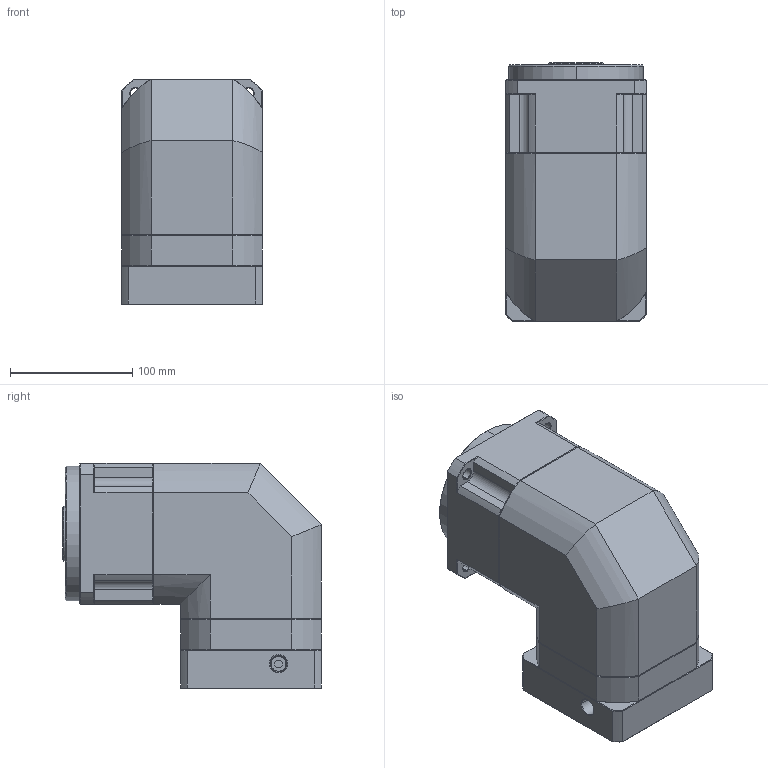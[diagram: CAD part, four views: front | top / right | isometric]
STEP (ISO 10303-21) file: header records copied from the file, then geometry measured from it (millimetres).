
FILE_DESCRIPTION (( 'STEP AP214' ), '1' );
FILE_NAME ('ZPBR115-K32-L1-P1-24-95-115-M6.step', '2024-06-29T08:12:56', ( 'Windows 蚚誧' ), ( 'Organization' ), 'SwSTEP 2.0', 'SolidWorks 2016', '' );
FILE_SCHEMA (( 'AUTOMOTIVE_DESIGN' ));
Length unit declared in the file: millimetre
Products named in the file (1): ZPBR115-K32-L1-P1-24-95-115-M6
Bounding box: 115 x 211.5 x 184.2 mm (x, y, z)
Surface area: 173448.7 mm2 (no closed solid volume)
Topology: 0 solids, 28 shells, 1793 faces, 4821 edges, 3090 vertices
Faces by surface type: plane 926, bspline 374, cone 264, cylinder 229
Entity records: 86443 total; most frequent: CARTESIAN_POINT 37857, ORIENTED_EDGE 9640, DIRECTION 7384, EDGE_CURVE 4821, VECTOR 3158, LINE 3158, VERTEX_POINT 3090, AXIS2_PLACEMENT_3D 2113
